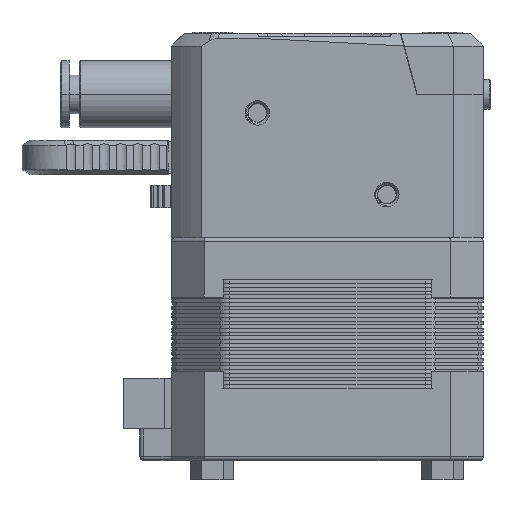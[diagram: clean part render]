
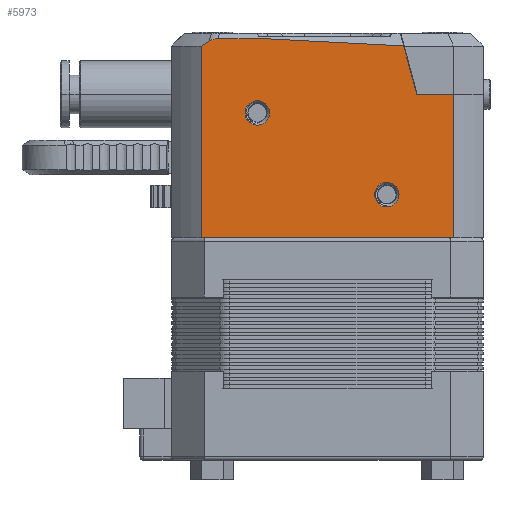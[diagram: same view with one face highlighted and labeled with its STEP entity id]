
A CAD part, left-side view. The second image highlights one B-rep face of the part: STEP entity #5973.
In plain terms, the highlighted planar face has unit normal (-1, 0, 0).
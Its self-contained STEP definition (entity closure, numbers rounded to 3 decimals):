
#992 = DIRECTION ( 'NONE',  ( 0., 1., 0. ) ) ;
#1245 = CARTESIAN_POINT ( 'NONE',  ( -31.513, 17.504, 25.562 ) ) ;
#2261 = CARTESIAN_POINT ( 'NONE',  ( -31.513, 16.898, 25.723 ) ) ;
#2604 = CARTESIAN_POINT ( 'NONE',  ( -31.513, 18.826, 26.16 ) ) ;
#3573 = DIRECTION ( 'NONE',  ( 0., 0., -1. ) ) ;
#3622 = VECTOR ( 'NONE', #18885, 1000. ) ;
#5589 = CARTESIAN_POINT ( 'NONE',  ( -31.513, 11.363, 15.723 ) ) ;
#5973 = ADVANCED_FACE ( 'NONE', ( #65004, #96479, #48492 ), #31432, .F. ) ;
#7256 = ORIENTED_EDGE ( 'NONE', *, *, #77446, .F. ) ;
#8264 = AXIS2_PLACEMENT_3D ( 'NONE', #5589, #61813, #100032 ) ;
#8875 = CIRCLE ( 'NONE', #48443, 1.65 ) ;
#9226 = DIRECTION ( 'NONE',  ( 1., 0., 0. ) ) ;
#12550 = ORIENTED_EDGE ( 'NONE', *, *, #39496, .F. ) ;
#12757 = CARTESIAN_POINT ( 'NONE',  ( -31.513, -15.087, 18.223 ) ) ;
#14121 = CIRCLE ( 'NONE', #63577, 1.65 ) ;
#14547 = EDGE_CURVE ( 'NONE', #76221, #45041, #14121, .T. ) ;
#15271 = VERTEX_POINT ( 'NONE', #76432 ) ;
#16006 = DIRECTION ( 'NONE',  ( 0., 1., 0. ) ) ;
#16336 = VERTEX_POINT ( 'NONE', #62468 ) ;
#17025 = VERTEX_POINT ( 'NONE', #47225 ) ;
#17669 = CARTESIAN_POINT ( 'NONE',  ( -31.513, 18.225, 25.152 ) ) ;
#18476 = CARTESIAN_POINT ( 'NONE',  ( -31.513, -6.087, 4.723 ) ) ;
#18885 = DIRECTION ( 'NONE',  ( 0., 1., 0. ) ) ;
#19522 = LINE ( 'NONE', #98527, #81576 ) ;
#19787 = ORIENTED_EDGE ( 'NONE', *, *, #14547, .T. ) ;
#20113 = CARTESIAN_POINT ( 'NONE',  ( -31.513, 11.363, 17.373 ) ) ;
#20682 = B_SPLINE_CURVE_WITH_KNOTS ( 'NONE', 3,
 ( #32631, #17669, #40401, #38878 ),
 .UNSPECIFIED., .F., .F.,
 ( 4, 4 ),
 ( 0.002, 0.003 ),
 .UNSPECIFIED. ) ;
#22155 = DIRECTION ( 'NONE',  ( 0., -0.263, -0.965 ) ) ;
#23162 = CARTESIAN_POINT ( 'NONE',  ( -31.513, -7.887, 26.473 ) ) ;
#24253 = EDGE_CURVE ( 'NONE', #81128, #100357, #87401, .T. ) ;
#25489 = EDGE_CURVE ( 'NONE', #47090, #17025, #34359, .T. ) ;
#28704 = EDGE_LOOP ( 'NONE', ( #19787, #65365 ) ) ;
#30457 = CARTESIAN_POINT ( 'NONE',  ( -31.513, 11.363, 15.723 ) ) ;
#31432 = PLANE ( 'NONE',  #43270 ) ;
#32155 = CARTESIAN_POINT ( 'NONE',  ( -31.513, -8.357, 24.748 ) ) ;
#32631 = CARTESIAN_POINT ( 'NONE',  ( -31.513, 17.877, 25.362 ) ) ;
#32673 = CARTESIAN_POINT ( 'NONE',  ( -31.513, 17.696, 25.472 ) ) ;
#33472 = B_SPLINE_CURVE_WITH_KNOTS ( 'NONE', 3,
 ( #64727, #2261, #87441, #1245, #32673, #33690 ),
 .UNSPECIFIED., .F., .F.,
 ( 4, 2, 4 ),
 ( 0., 0.001, 0.001 ),
 .UNSPECIFIED. ) ;
#33690 = CARTESIAN_POINT ( 'NONE',  ( -31.513, 17.877, 25.362 ) ) ;
#34017 = CARTESIAN_POINT ( 'NONE',  ( -31.513, 18.913, 24.723 ) ) ;
#34359 = LINE ( 'NONE', #89622, #3622 ) ;
#36127 = LINE ( 'NONE', #81595, #93298 ) ;
#37816 = EDGE_LOOP ( 'NONE', ( #7256, #12550, #81352, #92885, #82234, #84248, #91340, #91627, #95811 ) ) ;
#38878 = CARTESIAN_POINT ( 'NONE',  ( -31.513, 18.913, 24.723 ) ) ;
#39496 = EDGE_CURVE ( 'NONE', #100755, #16336, #92897, .T. ) ;
#40401 = CARTESIAN_POINT ( 'NONE',  ( -31.513, 18.57, 24.939 ) ) ;
#40736 = DIRECTION ( 'NONE',  ( 1., 0., 0. ) ) ;
#41242 = EDGE_CURVE ( 'NONE', #89842, #80999, #19522, .T. ) ;
#41291 = DIRECTION ( 'NONE',  ( 0., -0.999, -0.052 ) ) ;
#43270 = AXIS2_PLACEMENT_3D ( 'NONE', #80000, #40736, #78992 ) ;
#44958 = CARTESIAN_POINT ( 'NONE',  ( -31.513, 10.413, 25.723 ) ) ;
#45041 = VERTEX_POINT ( 'NONE', #69859 ) ;
#45187 = VECTOR ( 'NONE', #22155, 1000. ) ;
#47090 = VERTEX_POINT ( 'NONE', #44958 ) ;
#47225 = CARTESIAN_POINT ( 'NONE',  ( -31.513, 16.686, 25.723 ) ) ;
#48443 = AXIS2_PLACEMENT_3D ( 'NONE', #30457, #78518, #16006 ) ;
#48492 = FACE_OUTER_BOUND ( 'NONE', #37816, .T. ) ;
#48509 = VERTEX_POINT ( 'NONE', #12757 ) ;
#49831 = CARTESIAN_POINT ( 'NONE',  ( -31.513, 11.363, 14.073 ) ) ;
#49977 = DIRECTION ( 'NONE',  ( 0., 1., 0. ) ) ;
#50048 = LINE ( 'NONE', #72309, #72303 ) ;
#55726 = EDGE_CURVE ( 'NONE', #17025, #15271, #33472, .T. ) ;
#56170 = EDGE_CURVE ( 'NONE', #80999, #59326, #36127, .T. ) ;
#57336 = VECTOR ( 'NONE', #41291, 1000. ) ;
#59326 = VERTEX_POINT ( 'NONE', #92213 ) ;
#59960 = EDGE_CURVE ( 'NONE', #47090, #100755, #80547, .T. ) ;
#60977 = EDGE_CURVE ( 'NONE', #15271, #89842, #20682, .T. ) ;
#61813 = DIRECTION ( 'NONE',  ( 1., 0., 0. ) ) ;
#62468 = CARTESIAN_POINT ( 'NONE',  ( -31.513, -10.137, 18.223 ) ) ;
#63577 = AXIS2_PLACEMENT_3D ( 'NONE', #18476, #98501, #49977 ) ;
#64727 = CARTESIAN_POINT ( 'NONE',  ( -31.513, 16.686, 25.723 ) ) ;
#65004 = FACE_BOUND ( 'NONE', #28704, .T. ) ;
#65365 = ORIENTED_EDGE ( 'NONE', *, *, #83283, .T. ) ;
#66092 = AXIS2_PLACEMENT_3D ( 'NONE', #95422, #9226, #992 ) ;
#67659 = DIRECTION ( 'NONE',  ( 0., -1., 0. ) ) ;
#67665 = ORIENTED_EDGE ( 'NONE', *, *, #93593, .T. ) ;
#69859 = CARTESIAN_POINT ( 'NONE',  ( -31.513, -6.087, 3.073 ) ) ;
#72303 = VECTOR ( 'NONE', #96004, 1000. ) ;
#72309 = CARTESIAN_POINT ( 'NONE',  ( -31.513, -15.087, 8.773 ) ) ;
#72801 = EDGE_LOOP ( 'NONE', ( #67665, #80538 ) ) ;
#76221 = VERTEX_POINT ( 'NONE', #94674 ) ;
#76432 = CARTESIAN_POINT ( 'NONE',  ( -31.513, 17.877, 25.362 ) ) ;
#77446 = EDGE_CURVE ( 'NONE', #16336, #48509, #88197, .T. ) ;
#78294 = CARTESIAN_POINT ( 'NONE',  ( -31.513, 18.913, -1.077 ) ) ;
#78518 = DIRECTION ( 'NONE',  ( 1., 0., 0. ) ) ;
#78828 = EDGE_CURVE ( 'NONE', #48509, #59326, #50048, .T. ) ;
#78992 = DIRECTION ( 'NONE',  ( 0., 1., 0. ) ) ;
#79469 = CARTESIAN_POINT ( 'NONE',  ( -31.513, -10.137, 18.223 ) ) ;
#80000 = CARTESIAN_POINT ( 'NONE',  ( -31.513, 18.913, 8.773 ) ) ;
#80538 = ORIENTED_EDGE ( 'NONE', *, *, #24253, .T. ) ;
#80547 = LINE ( 'NONE', #2604, #57336 ) ;
#80956 = DIRECTION ( 'NONE',  ( 0., -1., 0. ) ) ;
#80999 = VERTEX_POINT ( 'NONE', #78294 ) ;
#81128 = VERTEX_POINT ( 'NONE', #49831 ) ;
#81352 = ORIENTED_EDGE ( 'NONE', *, *, #59960, .F. ) ;
#81576 = VECTOR ( 'NONE', #3573, 1000. ) ;
#81595 = CARTESIAN_POINT ( 'NONE',  ( -31.513, 18.913, -1.077 ) ) ;
#82234 = ORIENTED_EDGE ( 'NONE', *, *, #55726, .T. ) ;
#83283 = EDGE_CURVE ( 'NONE', #45041, #76221, #84221, .T. ) ;
#84221 = CIRCLE ( 'NONE', #66092, 1.65 ) ;
#84248 = ORIENTED_EDGE ( 'NONE', *, *, #60977, .T. ) ;
#85392 = VECTOR ( 'NONE', #80956, 1000. ) ;
#87401 = CIRCLE ( 'NONE', #8264, 1.65 ) ;
#87441 = CARTESIAN_POINT ( 'NONE',  ( -31.513, 17.103, 25.687 ) ) ;
#88197 = LINE ( 'NONE', #79469, #85392 ) ;
#89622 = CARTESIAN_POINT ( 'NONE',  ( -31.513, 15.967, 25.723 ) ) ;
#89842 = VERTEX_POINT ( 'NONE', #34017 ) ;
#91340 = ORIENTED_EDGE ( 'NONE', *, *, #41242, .T. ) ;
#91627 = ORIENTED_EDGE ( 'NONE', *, *, #56170, .T. ) ;
#92213 = CARTESIAN_POINT ( 'NONE',  ( -31.513, -15.087, -1.077 ) ) ;
#92885 = ORIENTED_EDGE ( 'NONE', *, *, #25489, .T. ) ;
#92897 = LINE ( 'NONE', #23162, #45187 ) ;
#93298 = VECTOR ( 'NONE', #67659, 1000. ) ;
#93593 = EDGE_CURVE ( 'NONE', #100357, #81128, #8875, .T. ) ;
#94674 = CARTESIAN_POINT ( 'NONE',  ( -31.513, -6.087, 6.373 ) ) ;
#95422 = CARTESIAN_POINT ( 'NONE',  ( -31.513, -6.087, 4.723 ) ) ;
#95811 = ORIENTED_EDGE ( 'NONE', *, *, #78828, .F. ) ;
#96004 = DIRECTION ( 'NONE',  ( 0., 0., -1. ) ) ;
#96479 = FACE_BOUND ( 'NONE', #72801, .T. ) ;
#98501 = DIRECTION ( 'NONE',  ( 1., 0., 0. ) ) ;
#98527 = CARTESIAN_POINT ( 'NONE',  ( -31.513, 18.913, 8.773 ) ) ;
#100032 = DIRECTION ( 'NONE',  ( 0., 1., 0. ) ) ;
#100357 = VERTEX_POINT ( 'NONE', #20113 ) ;
#100755 = VERTEX_POINT ( 'NONE', #32155 ) ;
